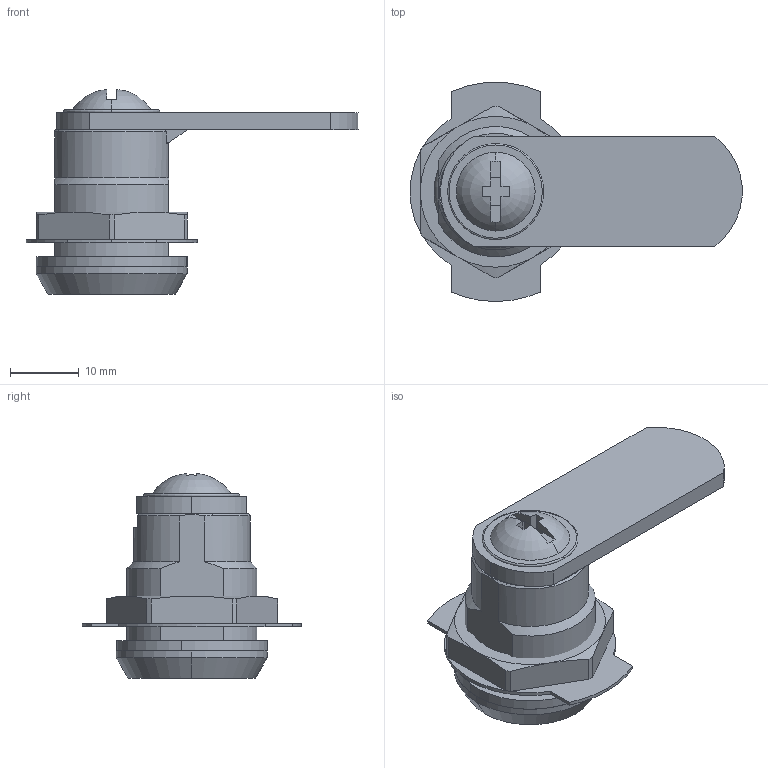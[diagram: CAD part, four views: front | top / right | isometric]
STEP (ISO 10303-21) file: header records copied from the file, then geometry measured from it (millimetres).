
FILE_DESCRIPTION (( 'STEP AP214' ), '1' );
FILE_NAME ('GE-0100.STEP', '2016-09-08T11:18:29', ( '' ), ( '' ), 'SwSTEP 2.0', 'SolidWorks 2015', '' );
FILE_SCHEMA (( 'AUTOMOTIVE_DESIGN' ));
Length unit declared in the file: millimetre
Products named in the file (9): GE-0100; 2.M19-22.00.00.01(Korpus )_P; 2.M19-22.00.00.02(sworzeñD3); 2.M19-22.00.00.06(podkladka teflonowa); 2.M19-22.00.00.04(nakrêtka); 2.M19-22.00.00.03(jêzykl=46,H=0,gr=2,5)_A; 2.M19-22.00.00.05(podk³adka blokuj¹ca); 2.M19-22.00.00.07(SrubaM6); DIN 3771_12x3
Assembly tree (8 placements, depth 2):
  GE-0100
    2.M19-22.00.00.01(Korpus )_P
    2.M19-22.00.00.02(sworzeñD3)
    2.M19-22.00.00.06(podkladka teflonowa)
    2.M19-22.00.00.04(nakrêtka)
    2.M19-22.00.00.03(jêzykl=46,H=0,gr=2,5)_A
    2.M19-22.00.00.05(podk³adka blokuj¹ca)
    2.M19-22.00.00.07(SrubaM6)
    DIN 3771_12x3
Bounding box: 48.41 x 31.94 x 29.86 mm (x, y, z)
Volume: 8496.8 mm3; surface area: 9089.2 mm2
Topology: 8 solids, 8 shells, 165 faces, 406 edges, 263 vertices
Faces by surface type: plane 79, cylinder 53, cone 25, torus 8
Entity records: 5505 total; most frequent: CARTESIAN_POINT 1042, DIRECTION 871, ORIENTED_EDGE 808, EDGE_CURVE 404, AXIS2_PLACEMENT_3D 334, VERTEX_POINT 263, LINE 203, VECTOR 203
